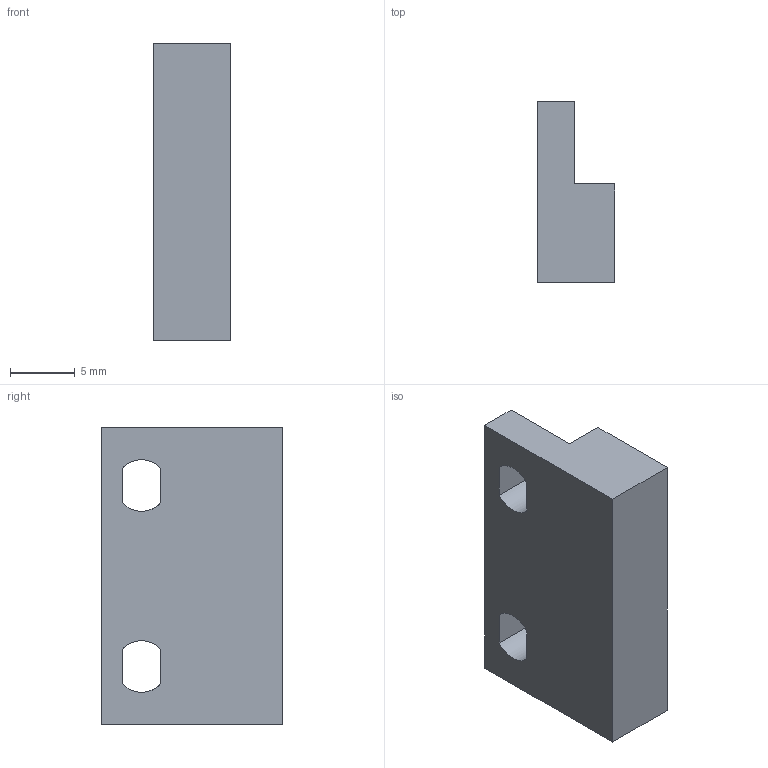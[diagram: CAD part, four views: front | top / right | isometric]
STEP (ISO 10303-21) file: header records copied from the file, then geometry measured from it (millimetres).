
FILE_DESCRIPTION(/* description */ (''),/* implementation_level */ '2;1');
FILE_NAME(/* name */ '6.y-drive#6.6#la-lsp-1',/* time_stamp */ '2014-12-01T20:15:46+01:00',/* author */ (''),/* organization */ (''),/* preprocessor_version */ 'ST-DEVELOPER v14',/* originating_system */ '',/* authorisation */ '');
FILE_SCHEMA (('AUTOMOTIVE_DESIGN'));
Length unit declared in the file: millimetre
Products named in the file (1): Document
Bounding box: 6 x 14 x 23 mm (x, y, z)
Volume: 1413.3 mm3; surface area: 1075.3 mm2
Topology: 1 solids, 1 shells, 16 faces, 42 edges, 28 vertices
Faces by surface type: plane 8, bspline 8
Entity records: 1036 total; most frequent: CARTESIAN_POINT 456, B_SPLINE_CURVE_WITH_KNOTS 102, ORIENTED_EDGE 84, PCURVE 84, DEFINITIONAL_REPRESENTATION 84, SURFACE_CURVE 42, EDGE_CURVE 42, VERTEX_POINT 28
